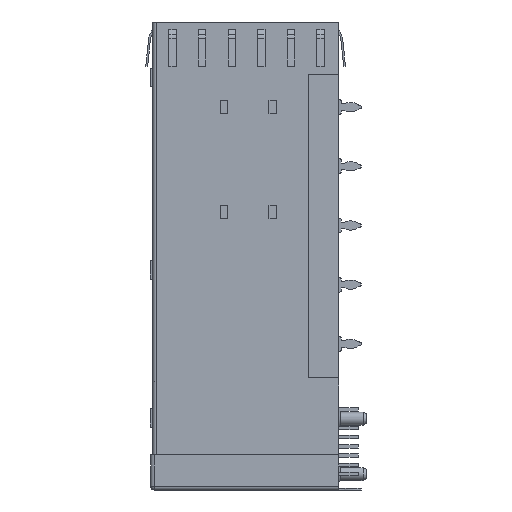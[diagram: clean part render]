
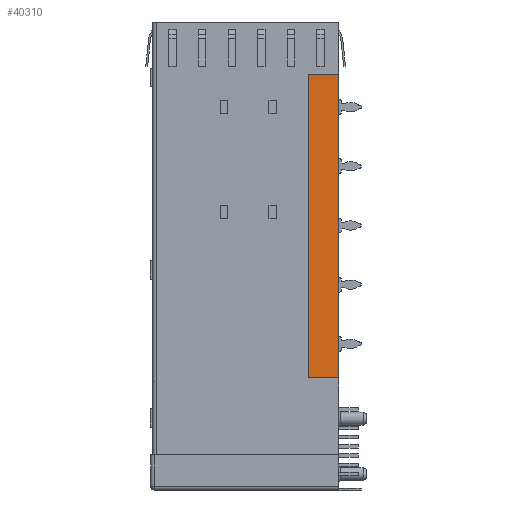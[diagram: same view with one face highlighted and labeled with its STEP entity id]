
A CAD part, left-side view. The second image highlights one B-rep face of the part: STEP entity #40310.
In plain terms, the highlighted planar face has unit normal (-1, 0, 0).
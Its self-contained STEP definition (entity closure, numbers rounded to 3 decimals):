
#628 = LINE ( 'NONE', #8221, #42386 ) ;
#3755 = FACE_OUTER_BOUND ( 'NONE', #25215, .T. ) ;
#3967 = ORIENTED_EDGE ( 'NONE', *, *, #63321, .F. ) ;
#5019 = DIRECTION ( 'NONE',  ( 0., 1., 0. ) ) ;
#5380 = VERTEX_POINT ( 'NONE', #60252 ) ;
#6934 = VECTOR ( 'NONE', #43363, 1000. ) ;
#8221 = CARTESIAN_POINT ( 'NONE',  ( -28.875, 0., -7.1 ) ) ;
#8966 = EDGE_CURVE ( 'NONE', #67732, #19406, #628, .T. ) ;
#9463 = ORIENTED_EDGE ( 'NONE', *, *, #8966, .F. ) ;
#15541 = VECTOR ( 'NONE', #5019, 1000. ) ;
#18661 = CARTESIAN_POINT ( 'NONE',  ( -28.875, 0., -7.1 ) ) ;
#19406 = VERTEX_POINT ( 'NONE', #69872 ) ;
#20200 = VERTEX_POINT ( 'NONE', #51469 ) ;
#25215 = EDGE_LOOP ( 'NONE', ( #9463, #3967, #61123, #34425 ) ) ;
#26538 = PLANE ( 'NONE',  #39322 ) ;
#28129 = EDGE_CURVE ( 'NONE', #19406, #5380, #49604, .T. ) ;
#32151 = DIRECTION ( 'NONE',  ( 0., 0., 1. ) ) ;
#34425 = ORIENTED_EDGE ( 'NONE', *, *, #28129, .F. ) ;
#36573 = LINE ( 'NONE', #65649, #6934 ) ;
#39322 = AXIS2_PLACEMENT_3D ( 'NONE', #54515, #65413, #32151 ) ;
#40310 = ADVANCED_FACE ( 'NONE', ( #3755 ), #26538, .F. ) ;
#42386 = VECTOR ( 'NONE', #52950, 1000. ) ;
#43363 = DIRECTION ( 'NONE',  ( 0., 0., 1. ) ) ;
#46636 = DIRECTION ( 'NONE',  ( 0., 0., -1. ) ) ;
#49604 = LINE ( 'NONE', #18661, #59120 ) ;
#50240 = CARTESIAN_POINT ( 'NONE',  ( -28.875, 0., -48.1 ) ) ;
#50304 = CARTESIAN_POINT ( 'NONE',  ( -28.875, 4.1, -7.1 ) ) ;
#51469 = CARTESIAN_POINT ( 'NONE',  ( -28.875, 4.1, -48.1 ) ) ;
#52950 = DIRECTION ( 'NONE',  ( 0., -1., 0. ) ) ;
#54515 = CARTESIAN_POINT ( 'NONE',  ( -28.875, 0., 0. ) ) ;
#59120 = VECTOR ( 'NONE', #46636, 1000. ) ;
#60252 = CARTESIAN_POINT ( 'NONE',  ( -28.875, 0., -48.1 ) ) ;
#61078 = EDGE_CURVE ( 'NONE', #5380, #20200, #72021, .T. ) ;
#61123 = ORIENTED_EDGE ( 'NONE', *, *, #61078, .F. ) ;
#63321 = EDGE_CURVE ( 'NONE', #20200, #67732, #36573, .T. ) ;
#65413 = DIRECTION ( 'NONE',  ( 1., 0., 0. ) ) ;
#65649 = CARTESIAN_POINT ( 'NONE',  ( -28.875, 4.1, -7.1 ) ) ;
#67732 = VERTEX_POINT ( 'NONE', #50304 ) ;
#69872 = CARTESIAN_POINT ( 'NONE',  ( -28.875, 0., -7.1 ) ) ;
#72021 = LINE ( 'NONE', #50240, #15541 ) ;
